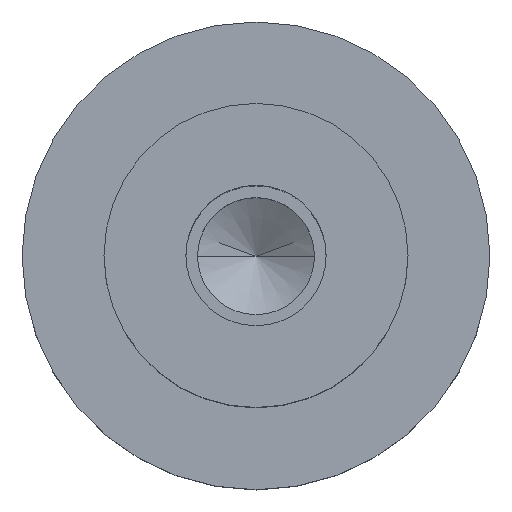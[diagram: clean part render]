
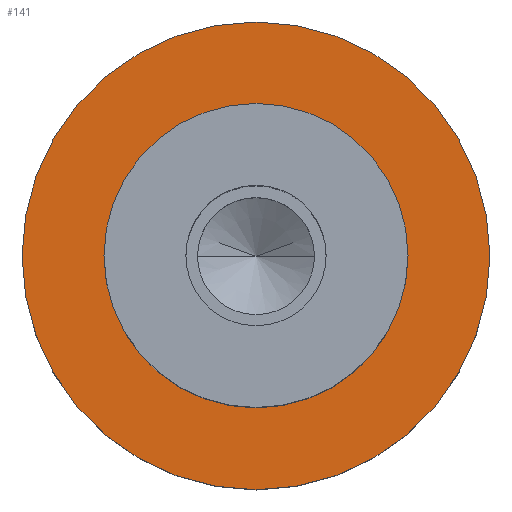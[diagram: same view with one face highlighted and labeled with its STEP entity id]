
A CAD part, top view. The second image highlights one B-rep face of the part: STEP entity #141.
In plain terms, the highlighted planar face has unit normal (0, 0, 1).
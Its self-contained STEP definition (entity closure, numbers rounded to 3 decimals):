
#101=PLANE('',#461);
#109=FACE_BOUND('',#188,.T.);
#110=FACE_BOUND('',#189,.T.);
#141=ADVANCED_FACE('',(#109,#110),#101,.T.);
#188=EDGE_LOOP('',(#279,#280));
#189=EDGE_LOOP('',(#281,#282));
#215=CIRCLE('',#455,6.5);
#216=CIRCLE('',#457,6.5);
#217=CIRCLE('',#459,10.);
#218=CIRCLE('',#460,10.);
#279=ORIENTED_EDGE('',*,*,#378,.F.);
#280=ORIENTED_EDGE('',*,*,#379,.F.);
#281=ORIENTED_EDGE('',*,*,#377,.T.);
#282=ORIENTED_EDGE('',*,*,#375,.T.);
#338=VERTEX_POINT('',#658);
#339=VERTEX_POINT('',#660);
#340=VERTEX_POINT('',#666);
#341=VERTEX_POINT('',#667);
#375=EDGE_CURVE('',#339,#338,#215,.T.);
#377=EDGE_CURVE('',#338,#339,#216,.T.);
#378=EDGE_CURVE('',#340,#341,#217,.T.);
#379=EDGE_CURVE('',#341,#340,#218,.T.);
#455=AXIS2_PLACEMENT_3D('',#659,#542,#543);
#457=AXIS2_PLACEMENT_3D('',#663,#547,#548);
#459=AXIS2_PLACEMENT_3D('',#665,#551,#552);
#460=AXIS2_PLACEMENT_3D('',#668,#553,#554);
#461=AXIS2_PLACEMENT_3D('',#669,#555,#556);
#542=DIRECTION('',(0.,0.,-1.));
#543=DIRECTION('',(0.,1.,0.));
#547=DIRECTION('',(0.,0.,-1.));
#548=DIRECTION('',(0.,-1.,0.));
#551=DIRECTION('',(0.,0.,-1.));
#552=DIRECTION('',(0.,1.,0.));
#553=DIRECTION('',(0.,0.,-1.));
#554=DIRECTION('',(0.,-1.,0.));
#555=DIRECTION('',(0.,0.,1.));
#556=DIRECTION('',(0.,-1.,0.));
#658=CARTESIAN_POINT('',(-6.5,0.,0.));
#659=CARTESIAN_POINT('',(0.,0.,0.));
#660=CARTESIAN_POINT('',(6.5,0.,0.));
#663=CARTESIAN_POINT('',(0.,0.,0.));
#665=CARTESIAN_POINT('',(0.,0.,0.));
#666=CARTESIAN_POINT('',(10.,0.,0.));
#667=CARTESIAN_POINT('',(-10.,0.,0.));
#668=CARTESIAN_POINT('',(0.,0.,0.));
#669=CARTESIAN_POINT('',(0.,0.,0.));
